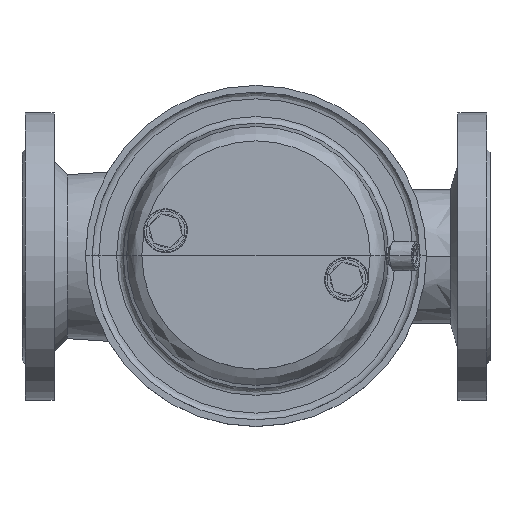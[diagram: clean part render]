
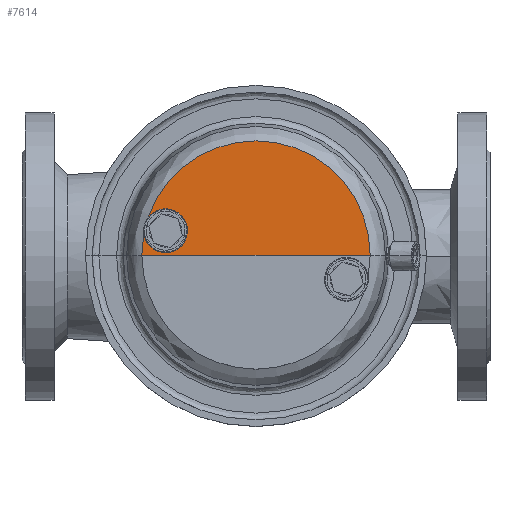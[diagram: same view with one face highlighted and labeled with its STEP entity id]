
A CAD part, top view. The second image highlights one B-rep face of the part: STEP entity #7614.
In plain terms, the highlighted planar face has unit normal (0, 0, 1).
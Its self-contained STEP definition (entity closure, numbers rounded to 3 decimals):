
#514=LINE('',#14692,#870);
#870=VECTOR('',#10251,304.8);
#1522=FACE_OUTER_BOUND('',#2078,.T.);
#2078=EDGE_LOOP('',(#5707,#5708));
#2721=CIRCLE('',#8480,85.362);
#3291=VERTEX_POINT('',#14689);
#3292=VERTEX_POINT('',#14690);
#4101=EDGE_CURVE('',#3291,#3292,#2721,.T.);
#4102=EDGE_CURVE('',#3292,#3291,#514,.T.);
#5707=ORIENTED_EDGE('',*,*,#4101,.T.);
#5708=ORIENTED_EDGE('',*,*,#4102,.T.);
#6712=PLANE('',#8479);
#7614=ADVANCED_FACE('',(#1522),#6712,.F.);
#8479=AXIS2_PLACEMENT_3D('',#14688,#10247,#10248);
#8480=AXIS2_PLACEMENT_3D('',#14691,#10249,#10250);
#10247=DIRECTION('center_axis',(0.,0.,-1.));
#10248=DIRECTION('ref_axis',(-1.,0.,0.));
#10249=DIRECTION('center_axis',(0.,0.,1.));
#10250=DIRECTION('ref_axis',(-1.,0.,0.));
#10251=DIRECTION('',(1.,0.,0.));
#14688=CARTESIAN_POINT('Origin',(0.,0.,566.029));
#14689=CARTESIAN_POINT('',(85.362,0.,566.029));
#14690=CARTESIAN_POINT('',(-85.362,0.,566.029));
#14691=CARTESIAN_POINT('Origin',(0.,0.,566.029));
#14692=CARTESIAN_POINT('',(-85.362,0.,566.029));
